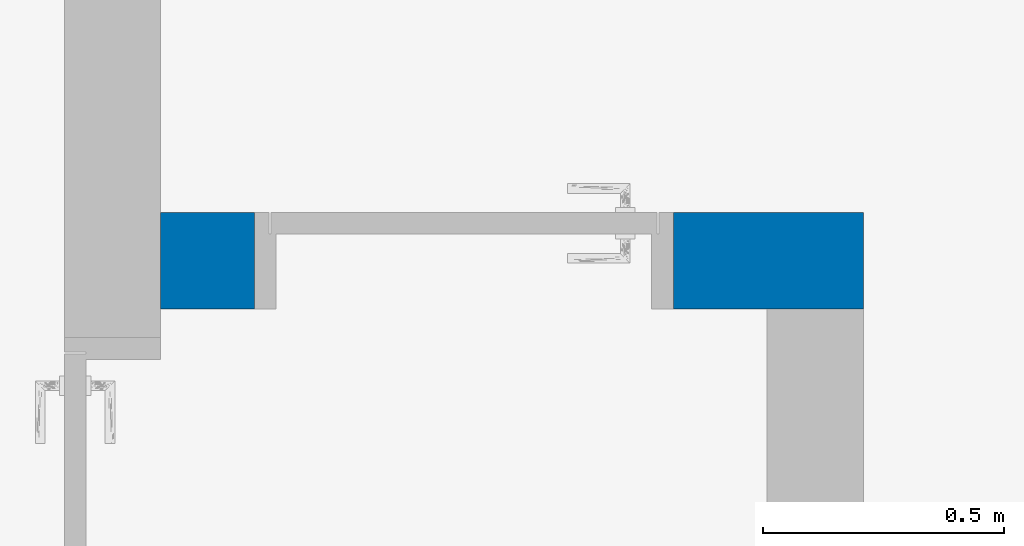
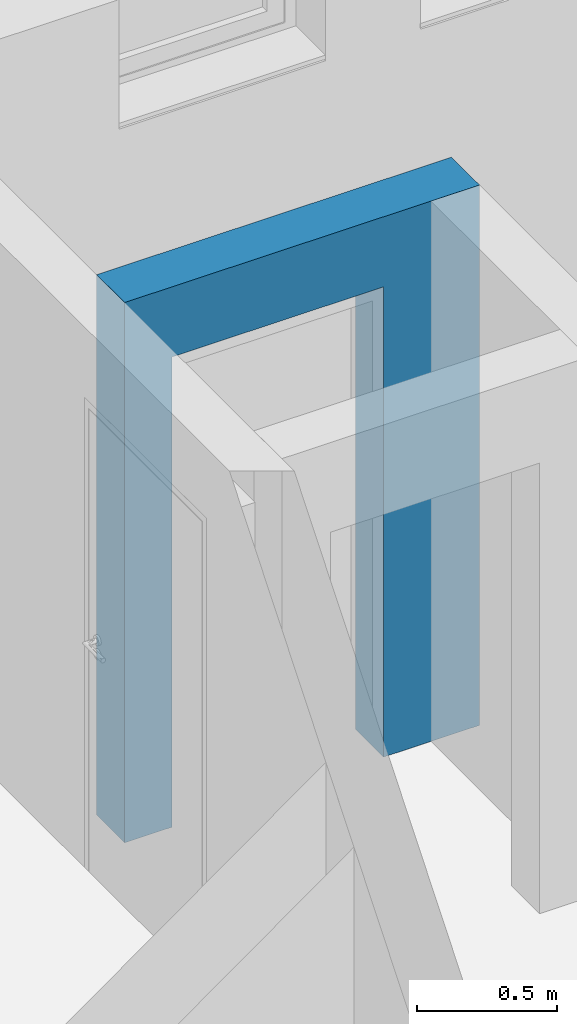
# One storey, part 12 of 22: 1 wall, 1 opening.
"""IFC2X3 building model written with IfcOpenShell, lengths in metres."""

from ifc_helpers import new_model, entity, si_unit, converted_unit, derived_unit, direction, frame, frame_2d, origin, place, context, subcontext, project, spatial, polyline, rectangle, extrude, clip, bounded_halfspace, material, layer, layer_set, layer_usage, type_object, element, save


model = new_model("IFC2X3")

# Units and contexts
model_context = context("Model", 3, precision=1e-05, world=origin(), true_north=direction((6.123233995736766e-17, 1.0)))
body_context = subcontext(model_context, "Body", "Model", "MODEL_VIEW")
ifc_project = project(units=[si_unit("LENGTHUNIT", "METRE"), si_unit("AREAUNIT", "SQUARE_METRE"), si_unit("VOLUMEUNIT", "CUBIC_METRE"), si_unit("POWERUNIT", "WATT"), derived_unit("USERDEFINED", [(si_unit("MASSUNIT", "GRAM", prefix="KILO"), 1), (si_unit("TIMEUNIT", "SECOND"), -3)]), derived_unit("THERMALRESISTANCEUNIT", [(si_unit("MASSUNIT", "GRAM", prefix="KILO"), -1), (si_unit("TIMEUNIT", "SECOND"), 3), (si_unit("THERMODYNAMICTEMPERATUREUNIT", "KELVIN"), 1)]), derived_unit("USERDEFINED", [(si_unit("MASSUNIT", "GRAM", prefix="KILO"), 1), (si_unit("TIMEUNIT", "SECOND"), -2), (si_unit("THERMODYNAMICTEMPERATUREUNIT", "KELVIN"), -1)]), derived_unit("THERMALTRANSMITTANCEUNIT", [(si_unit("MASSUNIT", "GRAM", prefix="KILO"), 1), (si_unit("TIMEUNIT", "SECOND"), -3), (si_unit("THERMODYNAMICTEMPERATUREUNIT", "KELVIN"), -1)]), converted_unit("PLANEANGLEUNIT", "DEGREE", entity("IfcPlaneAngleMeasure", 0.017453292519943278), si_unit("PLANEANGLEUNIT", "RADIAN"), dimensions=[0, 0, 0, 0, 0, 0, 0]), derived_unit("MOMENTOFINERTIAUNIT", [(si_unit("LENGTHUNIT", "METRE"), 4)])], contexts=[model_context])

# Site, building, storey
site_placement = place(None, origin())
site = spatial("IfcSite", under=ifc_project, at=site_placement, Name="Default", CompositionType="ELEMENT")
building_placement = place(site_placement, origin())
building = spatial("IfcBuilding", under=site, at=building_placement, CompositionType="ELEMENT")
storey_placement = place(building_placement, origin())
storey = spatial("IfcBuildingStorey", under=building, at=storey_placement, Name="Untergeschoss", CompositionType="ELEMENT", Elevation=0.0)

# Wall, opening
ifc_material = material(Name="Mauerwerk - Ziegel")
ifc_layer = layer(ifc_material, 0.2)
ifc_layer_set = layer_set([ifc_layer], Name="Basiswand:Ziegel 200")
ifc_layer_usage = layer_usage(ifc_layer_set, "AXIS2", "NEGATIVE", 0.1)
wall_type = type_object("IfcWallType", Name="Basiswand:Ziegel 200", PredefinedType="STANDARD", material=ifc_layer_set)
wall_placement = place(storey_placement, frame((34.18375489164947, 26.502272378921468, 0.0)))
wall = element("IfcWallStandardCase", 1, at=wall_placement, inside=storey, type_object=wall_type, material=ifc_layer_usage, Name="Basiswand:Ziegel 200", ObjectType="Basiswand:Ziegel 200", context=body_context, shape_type="Clipping", body=[
    clip(extrude(rectangle(XDim=1.459999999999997, YDim=0.20000000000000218, at=frame_2d((0.7299999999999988, -1.8110513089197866e-15), x_axis=(1.0, 0.0))), origin(), (0.0, 0.0, 1.0), 2.35), bounded_halfspace(frame((0.0, -0.10000000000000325, 2.35), z_axis=(0.0, 0.0, -1.0), x_axis=(1.0, 0.0, 0.0)), True, frame((0.0, -0.10000000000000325, 2.35)), polyline([(0.0, 0.0), (1.2599999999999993, 0.0), (1.4599999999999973, 0.0), (1.4599999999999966, 0.20000000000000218), (0.0, 0.20000000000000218), (0.0, 0.0)]))),
])
opening_placement = place(wall_placement, frame((0.19499999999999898, -0.10000000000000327, -0.18000000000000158)))
element("IfcOpeningElement", 2, at=opening_placement, cuts=wall, Name="TU DF 1 - Rahmenstock flächenbündig:DL - 780 x 2000:1", ObjectType="Opening", context=body_context, shape_type="SweptSolid", body=[
    extrude(rectangle(XDim=2.224999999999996, YDim=0.8699999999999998, at=frame_2d((1.1124999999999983, 0.4350000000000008), x_axis=(-1.0, 0.0))), frame((0.0, 0.0, 0.0), z_axis=(0.0, 1.0, 0.0), x_axis=(0.0, 0.0, 1.0)), (0.0, 0.0, 1.0), 0.2),
])

save(model, "model.ifc")
